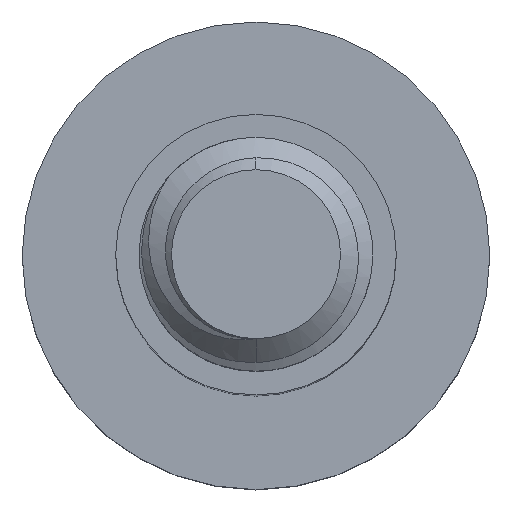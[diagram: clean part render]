
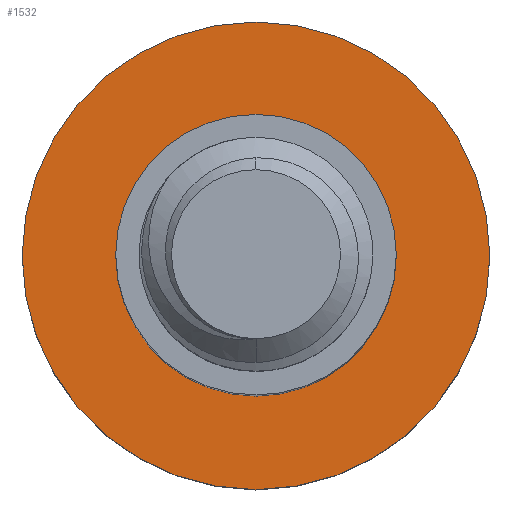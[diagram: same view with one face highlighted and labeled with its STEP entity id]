
A CAD part, top view. The second image highlights one B-rep face of the part: STEP entity #1532.
In plain terms, the highlighted planar face has unit normal (0, 0, 1).
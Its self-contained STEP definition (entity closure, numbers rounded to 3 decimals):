
#102 = ORIENTED_EDGE ( 'NONE', *, *, #669, .T. ) ;
#156 = EDGE_LOOP ( 'NONE', ( #346, #1817 ) ) ;
#185 = DIRECTION ( 'NONE',  ( 0., 0., -1. ) ) ;
#187 = DIRECTION ( 'NONE',  ( -1., 0., 0. ) ) ;
#196 = FACE_BOUND ( 'NONE', #1148, .T. ) ;
#201 = DIRECTION ( 'NONE',  ( 0., 0., -1. ) ) ;
#275 = CIRCLE ( 'NONE', #1804, 5. ) ;
#346 = ORIENTED_EDGE ( 'NONE', *, *, #2114, .F. ) ;
#595 = DIRECTION ( 'NONE',  ( 0., 0., -1. ) ) ;
#669 = EDGE_CURVE ( 'NONE', #2009, #1237, #1726, .T. ) ;
#677 = CIRCLE ( 'NONE', #1414, 3. ) ;
#746 = CARTESIAN_POINT ( 'NONE',  ( 0., 0., -14. ) ) ;
#833 = DIRECTION ( 'NONE',  ( -1., 0., 0. ) ) ;
#888 = CARTESIAN_POINT ( 'NONE',  ( -5., 0., -14. ) ) ;
#901 = CIRCLE ( 'NONE', #1375, 5. ) ;
#915 = DIRECTION ( 'NONE',  ( 0., 0., -1. ) ) ;
#1023 = EDGE_CURVE ( 'NONE', #1237, #2009, #677, .T. ) ;
#1069 = CARTESIAN_POINT ( 'NONE',  ( 0., 0., -14. ) ) ;
#1097 = ORIENTED_EDGE ( 'NONE', *, *, #1023, .T. ) ;
#1148 = EDGE_LOOP ( 'NONE', ( #1097, #102 ) ) ;
#1161 = CARTESIAN_POINT ( 'NONE',  ( 5., 0., -14. ) ) ;
#1176 = AXIS2_PLACEMENT_3D ( 'NONE', #746, #185, #2044 ) ;
#1237 = VERTEX_POINT ( 'NONE', #2303 ) ;
#1336 = DIRECTION ( 'NONE',  ( -1., 0., 0. ) ) ;
#1362 = PLANE ( 'NONE',  #2369 ) ;
#1375 = AXIS2_PLACEMENT_3D ( 'NONE', #1851, #915, #187 ) ;
#1414 = AXIS2_PLACEMENT_3D ( 'NONE', #1069, #1607, #833 ) ;
#1462 = EDGE_CURVE ( 'NONE', #1877, #2022, #901, .T. ) ;
#1532 = ADVANCED_FACE ( 'NONE', ( #196, #1697 ), #1362, .F. ) ;
#1533 = CARTESIAN_POINT ( 'NONE',  ( 3., 0., -14. ) ) ;
#1607 = DIRECTION ( 'NONE',  ( 0., 0., -1. ) ) ;
#1697 = FACE_OUTER_BOUND ( 'NONE', #156, .T. ) ;
#1726 = CIRCLE ( 'NONE', #1176, 3. ) ;
#1804 = AXIS2_PLACEMENT_3D ( 'NONE', #2069, #201, #1336 ) ;
#1817 = ORIENTED_EDGE ( 'NONE', *, *, #1462, .F. ) ;
#1851 = CARTESIAN_POINT ( 'NONE',  ( 0., 0., -14. ) ) ;
#1877 = VERTEX_POINT ( 'NONE', #888 ) ;
#2009 = VERTEX_POINT ( 'NONE', #1533 ) ;
#2022 = VERTEX_POINT ( 'NONE', #1161 ) ;
#2044 = DIRECTION ( 'NONE',  ( -1., 0., 0. ) ) ;
#2069 = CARTESIAN_POINT ( 'NONE',  ( 0., 0., -14. ) ) ;
#2075 = DIRECTION ( 'NONE',  ( -1., 0., 0. ) ) ;
#2084 = CARTESIAN_POINT ( 'NONE',  ( 0., 0., -14. ) ) ;
#2114 = EDGE_CURVE ( 'NONE', #2022, #1877, #275, .T. ) ;
#2303 = CARTESIAN_POINT ( 'NONE',  ( -3., 0., -14. ) ) ;
#2369 = AXIS2_PLACEMENT_3D ( 'NONE', #2084, #595, #2075 ) ;
